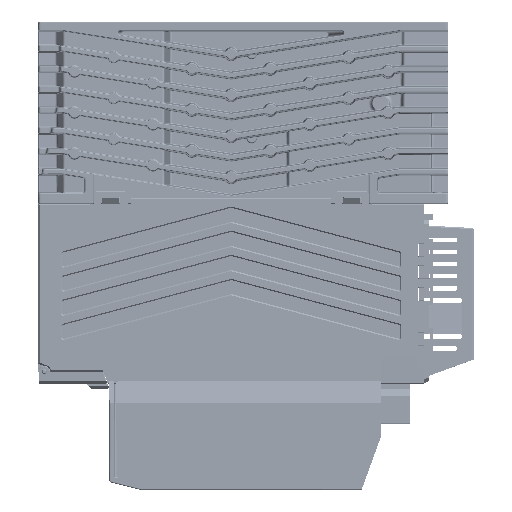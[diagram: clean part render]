
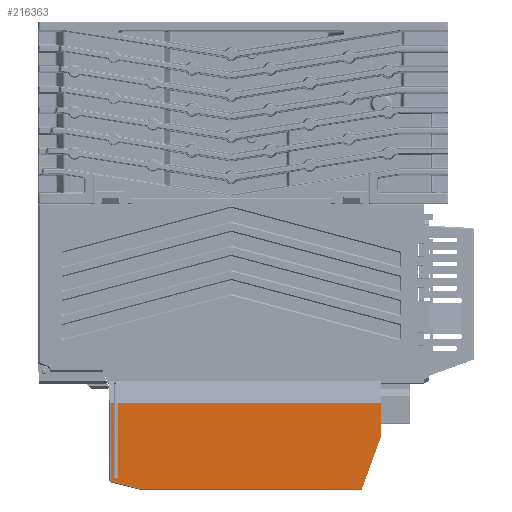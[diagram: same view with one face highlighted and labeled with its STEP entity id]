
A CAD part, top view. The second image highlights one B-rep face of the part: STEP entity #216363.
In plain terms, the highlighted planar face has unit normal (0, 0, 1) as drawn and (1, 0, 0) by its records, which use the part's own axes.
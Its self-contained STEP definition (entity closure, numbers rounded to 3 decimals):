
#214293=DIRECTION('',(0.,-1.,0.));
#214294=VECTOR('',#214293,91.066);
#214295=CARTESIAN_POINT('',(17.,5.524,44.5));
#214296=LINE('',#214295,#214294);
#214301=CARTESIAN_POINT('',(17.,16.14,39.5));
#214302=DIRECTION('',(1.,0.,0.));
#214303=DIRECTION('',(0.,0.,1.));
#214304=AXIS2_PLACEMENT_3D('',#214301,#214302,#214303);
#214306=DIRECTION('',(0.,0.,-1.));
#214307=VECTOR('',#214306,30.6);
#214308=CARTESIAN_POINT('',(17.,15.64,39.5));
#214309=LINE('',#214308,#214307);
#214310=DIRECTION('',(0.,-1.,0.));
#214311=VECTOR('',#214310,109.);
#214312=CARTESIAN_POINT('',(17.,15.64,8.9));
#214313=LINE('',#214312,#214311);
#214314=DIRECTION('',(0.,0.,1.));
#214315=VECTOR('',#214314,14.1);
#214316=CARTESIAN_POINT('',(17.,-93.36,8.9));
#214317=LINE('',#214316,#214315);
#214318=DIRECTION('',(0.,0.342,0.94));
#214319=VECTOR('',#214318,22.877);
#214320=CARTESIAN_POINT('',(17.,-93.36,23.));
#214321=LINE('',#214320,#214319);
#214322=CARTESIAN_POINT('',(17.,5.524,40.));
#214323=DIRECTION('',(-1.,0.,0.));
#214324=DIRECTION('',(0.,0.,1.));
#214325=AXIS2_PLACEMENT_3D('',#214322,#214323,#214324);
#214327=DIRECTION('',(0.,0.97,-0.243));
#214328=VECTOR('',#214327,12.394);
#214329=CARTESIAN_POINT('',(17.,6.616,44.366));
#214330=LINE('',#214329,#214328);
#214331=DIRECTION('',(0.,-1.,0.));
#214332=VECTOR('',#214331,1.5);
#214333=CARTESIAN_POINT('',(17.,18.64,8.9));
#214334=LINE('',#214333,#214332);
#214335=CARTESIAN_POINT('',(17.,16.14,39.469));
#214336=DIRECTION('',(1.,0.,0.));
#214337=DIRECTION('',(0.,1.,0.));
#214338=AXIS2_PLACEMENT_3D('',#214335,#214336,#214337);
#214340=CARTESIAN_POINT('',(17.,16.639,39.5));
#214341=DIRECTION('',(1.,0.,0.));
#214342=DIRECTION('',(0.,0.998,0.062));
#214343=AXIS2_PLACEMENT_3D('',#214340,#214341,#214342);
#214345=DIRECTION('',(0.,1.,0.));
#214346=VECTOR('',#214345,0.499);
#214347=CARTESIAN_POINT('',(17.,16.14,40.));
#214348=LINE('',#214347,#214346);
#214611=DIRECTION('',(0.,0.,-1.));
#214612=VECTOR('',#214611,30.569);
#214613=CARTESIAN_POINT('',(17.,17.14,39.469));
#214614=LINE('',#214613,#214612);
#214679=DIRECTION('',(0.,0.,1.));
#214680=VECTOR('',#214679,32.46);
#214681=CARTESIAN_POINT('',(17.,18.64,8.9));
#214682=LINE('',#214681,#214680);
#215888=CARTESIAN_POINT('',(17.,5.524,44.5));
#215889=CARTESIAN_POINT('',(17.,-85.542,44.5));
#215890=VERTEX_POINT('',#215888);
#215891=VERTEX_POINT('',#215889);
#215892=CARTESIAN_POINT('',(17.,16.14,40.));
#215893=CARTESIAN_POINT('',(17.,16.639,40.));
#215894=VERTEX_POINT('',#215892);
#215895=VERTEX_POINT('',#215893);
#215896=CARTESIAN_POINT('',(17.,15.64,39.5));
#215897=VERTEX_POINT('',#215896);
#215898=CARTESIAN_POINT('',(17.,15.64,8.9));
#215899=VERTEX_POINT('',#215898);
#215900=CARTESIAN_POINT('',(17.,-93.36,8.9));
#215901=VERTEX_POINT('',#215900);
#215902=CARTESIAN_POINT('',(17.,-93.36,23.));
#215903=VERTEX_POINT('',#215902);
#215904=CARTESIAN_POINT('',(17.,6.616,44.366));
#215905=VERTEX_POINT('',#215904);
#215906=CARTESIAN_POINT('',(17.,18.64,41.36));
#215907=VERTEX_POINT('',#215906);
#215908=CARTESIAN_POINT('',(17.,18.64,8.9));
#215909=VERTEX_POINT('',#215908);
#215910=CARTESIAN_POINT('',(17.,17.14,8.9));
#215911=VERTEX_POINT('',#215910);
#215912=CARTESIAN_POINT('',(17.,17.14,39.469));
#215913=VERTEX_POINT('',#215912);
#215914=CARTESIAN_POINT('',(17.,17.138,39.531));
#215915=VERTEX_POINT('',#215914);
#216329=CARTESIAN_POINT('',(17.,-93.36,0.));
#216330=DIRECTION('',(1.,0.,0.));
#216331=DIRECTION('',(0.,1.,0.));
#216332=AXIS2_PLACEMENT_3D('',#216329,#216330,#216331);
#216333=PLANE('',#216332);
#216335=ORIENTED_EDGE('',*,*,#216334,.F.);
#216337=ORIENTED_EDGE('',*,*,#216336,.T.);
#216339=ORIENTED_EDGE('',*,*,#216338,.T.);
#216341=ORIENTED_EDGE('',*,*,#216340,.T.);
#216343=ORIENTED_EDGE('',*,*,#216342,.T.);
#216345=ORIENTED_EDGE('',*,*,#216344,.T.);
#216346=ORIENTED_EDGE('',*,*,#216319,.F.);
#216348=ORIENTED_EDGE('',*,*,#216347,.T.);
#216350=ORIENTED_EDGE('',*,*,#216349,.T.);
#216352=ORIENTED_EDGE('',*,*,#216351,.F.);
#216354=ORIENTED_EDGE('',*,*,#216353,.T.);
#216356=ORIENTED_EDGE('',*,*,#216355,.F.);
#216358=ORIENTED_EDGE('',*,*,#216357,.T.);
#216360=ORIENTED_EDGE('',*,*,#216359,.T.);
#216361=EDGE_LOOP('',(#216335,#216337,#216339,#216341,#216343,#216345,#216346,
#216348,#216350,#216352,#216354,#216356,#216358,#216360));
#216362=FACE_OUTER_BOUND('',#216361,.F.);
#214305=CIRCLE('',#214304,0.5);
#214326=CIRCLE('',#214325,4.5);
#214339=CIRCLE('',#214338,1.);
#214344=CIRCLE('',#214343,0.5);
#216319=EDGE_CURVE('',#215890,#215891,#214296,.T.);
#216334=EDGE_CURVE('',#215894,#215895,#214348,.T.);
#216336=EDGE_CURVE('',#215894,#215897,#214305,.T.);
#216338=EDGE_CURVE('',#215897,#215899,#214309,.T.);
#216340=EDGE_CURVE('',#215899,#215901,#214313,.T.);
#216342=EDGE_CURVE('',#215901,#215903,#214317,.T.);
#216344=EDGE_CURVE('',#215903,#215891,#214321,.T.);
#216347=EDGE_CURVE('',#215890,#215905,#214326,.T.);
#216349=EDGE_CURVE('',#215905,#215907,#214330,.T.);
#216351=EDGE_CURVE('',#215909,#215907,#214682,.T.);
#216353=EDGE_CURVE('',#215909,#215911,#214334,.T.);
#216355=EDGE_CURVE('',#215913,#215911,#214614,.T.);
#216357=EDGE_CURVE('',#215913,#215915,#214339,.T.);
#216359=EDGE_CURVE('',#215915,#215895,#214344,.T.);
#216363=ADVANCED_FACE('',(#216362),#216333,.T.);
